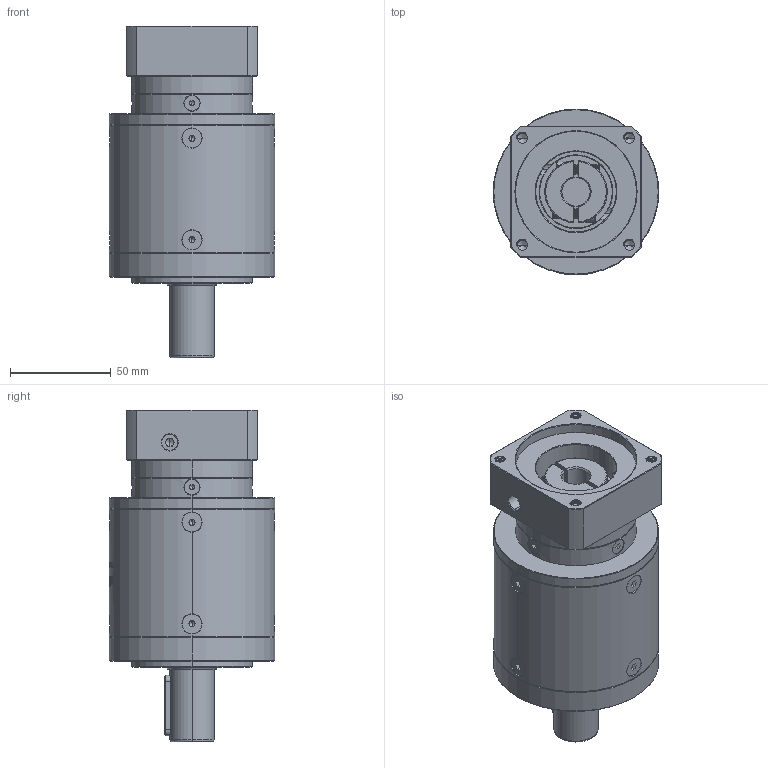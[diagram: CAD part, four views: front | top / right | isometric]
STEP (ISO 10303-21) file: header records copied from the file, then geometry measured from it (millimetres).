
FILE_DESCRIPTION (( 'STEP AP214' ), '1' );
FILE_NAME ('ZE80-D22-L3-14-60-75-M6.step', '2022-05-08T06:05:20', ( '' ), ( 'Microsoft' ), 'SwSTEP 2.0', 'SolidWorks 2016', '' );
FILE_SCHEMA (( 'AUTOMOTIVE_DESIGN' ));
Length unit declared in the file: millimetre
Products named in the file (1): ZE80-D22-L3-14-60-75-M6
Bounding box: 82 x 82 x 164.5 mm (x, y, z)
Volume: 560837.5 mm3; surface area: 72619 mm2
Topology: 18 solids, 18 shells, 2135 faces, 5611 edges, 3568 vertices
Faces by surface type: plane 948, cylinder 521, bspline 340, cone 312, torus 14
Entity records: 121854 total; most frequent: CARTESIAN_POINT 49946, ORIENTED_EDGE 11130, DIRECTION 8664, EDGE_CURVE 5565, VERTEX_POINT 3568, LINE 2964, VECTOR 2964, AXIS2_PLACEMENT_3D 2850
